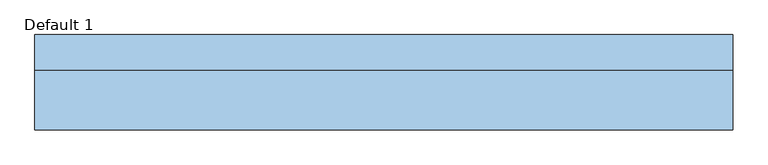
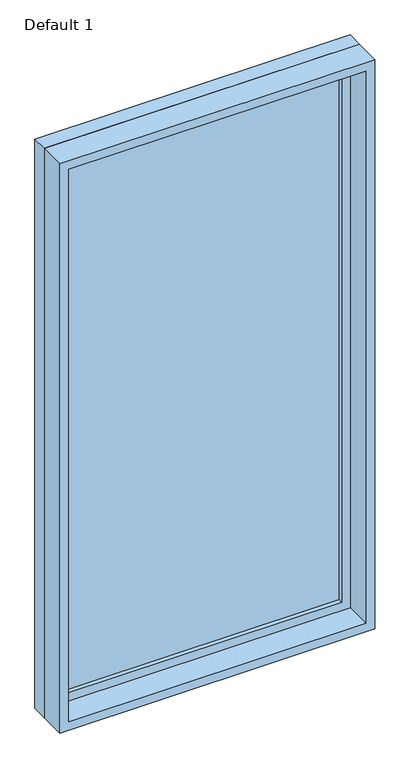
"""IFC4 building model written with IfcOpenShell, lengths in millimetres: window geometry, Planitar-Fixed : Default 1."""

import ifcopenshell
import ifcopenshell.guid

model = None  # the IFC model being written
_history = None  # IfcOwnerHistory: only IFC2X3 demands one
_inside = {}  # id of a spatial element -> (the spatial element, [elements in it])
_under = {}  # id of a project, library or spatial element -> (it, [spatial elements below it])
_declared = {}  # id of a project -> (the project, [libraries it declares])
_typed = {}  # id of a type object -> (the type object, [elements of that type])
_made_of = {}  # id of a material, layer set ... -> (it, [elements and type objects made of it])


def new_model(schema):
    """Start an empty IFC model of exactly this schema.

    Asked for "IFC4X3", IfcOpenShell would pick the latest addendum, in which some entities
    have other attributes; the version numbers below select the first issue.
    IFC2X3 requires an IfcOwnerHistory on every rooted entity: one is made here for all.
    """
    global model, _history
    if schema == "IFC4X3":
        model = ifcopenshell.file(schema_version=(4, 3, 0, 0))
    else:
        model = ifcopenshell.file(schema=schema)
    _inside.clear()
    _under.clear()
    _declared.clear()
    _typed.clear()
    _made_of.clear()
    _history = None
    if model.schema == "IFC2X3":
        org = make("IfcOrganization", Name="unknown")
        user = make(
            "IfcPersonAndOrganization",
            ThePerson=make("IfcPerson", FamilyName="unknown"),
            TheOrganization=org,
        )
        app = make(
            "IfcApplication",
            ApplicationDeveloper=org,
            Version="unknown",
            ApplicationFullName="unknown",
            ApplicationIdentifier="unknown",
        )
        _history = make(
            "IfcOwnerHistory",
            OwningUser=user,
            OwningApplication=app,
            ChangeAction="ADDED",
            CreationDate=0,
        )
    return model


def make(cls, **values):
    """One entity of the class cls with the attributes given. An attribute that is None is left unset."""
    return model.create_entity(
        cls, **{name: value for name, value in values.items() if value is not None}
    )


def rooted(cls, **values):
    """An entity with a GlobalId (a new one), such as an element, a storey or a relation."""
    return make(cls, GlobalId=ifcopenshell.guid.new(), OwnerHistory=_history, **values)


def si_unit(unit_type, name, prefix=None):
    """IfcSIUnit, for example si_unit("LENGTHUNIT", "METRE", prefix="MILLI")."""
    return make("IfcSIUnit", UnitType=unit_type, Prefix=prefix, Name=name)


def assignment(units):
    """IfcUnitAssignment: the units of a project."""
    return None if units is None else make("IfcUnitAssignment", Units=units)


def point(xyz):
    """IfcCartesianPoint."""
    return None if xyz is None else make("IfcCartesianPoint", Coordinates=xyz)


def direction(xyz):
    """IfcDirection."""
    return None if xyz is None else make("IfcDirection", DirectionRatios=xyz)


def frame(location, z_axis=None, x_axis=None):
    """IfcAxis2Placement3D, a coordinate frame: its origin and axes. An axis left out is left unset."""
    return make(
        "IfcAxis2Placement3D",
        Location=point(location),
        Axis=direction(z_axis),
        RefDirection=direction(x_axis),
    )


def origin():
    """The frame at (0, 0, 0) with its axes left unset."""
    return frame((0.0, 0.0, 0.0))


def place(relative_to, where):
    """IfcLocalPlacement: puts the frame where relative to a parent placement (None: the world)."""
    return make(
        "IfcLocalPlacement", PlacementRelTo=relative_to, RelativePlacement=where
    )


def context(
    kind, dimensions, precision=None, world=None, true_north=None, identifier=None
):
    """IfcGeometricRepresentationContext, for example the 3D "Model" context."""
    return make(
        "IfcGeometricRepresentationContext",
        ContextIdentifier=identifier,
        ContextType=kind,
        CoordinateSpaceDimension=dimensions,
        Precision=precision,
        WorldCoordinateSystem=world,
        TrueNorth=true_north,
    )


def project(units=None, contexts=None):
    """IfcProject with its units and contexts."""
    return rooted(
        "IfcProject",
        Name="project",
        RepresentationContexts=contexts,
        UnitsInContext=assignment(units),
    )


def spatial(cls, under=None, at=None, **own):
    """A site, building, storey or space (cls), placed at a placement, below another one or the project."""
    s = rooted(cls, ObjectPlacement=at, **own)
    if under is not None:
        _under.setdefault(under.id(), (under, []))[1].append(s)
    return s


def polyline(points):
    """IfcPolyline through the points."""
    return make("IfcPolyline", Points=[point(p) for p in points])


def outline(outer, holes=None, kind="AREA"):
    """IfcArbitraryClosedProfileDef: a profile drawn as a closed curve; with holes, ...WithVoids."""
    if holes is None:
        return make("IfcArbitraryClosedProfileDef", ProfileType=kind, OuterCurve=outer)
    return make(
        "IfcArbitraryProfileDefWithVoids",
        ProfileType=kind,
        OuterCurve=outer,
        InnerCurves=holes,
    )


def extrude(swept, where, along, depth):
    """IfcExtrudedAreaSolid: the profile swept, set in the frame where, extruded along a direction by depth."""
    return make(
        "IfcExtrudedAreaSolid",
        SweptArea=swept,
        Position=where,
        ExtrudedDirection=direction(along),
        Depth=depth,
    )


def shape(context_of_items, identifier, shape_type, items):
    """IfcShapeRepresentation: the items that make up one representation, for example the "Body"."""
    return make(
        "IfcShapeRepresentation",
        ContextOfItems=context_of_items,
        RepresentationIdentifier=identifier,
        RepresentationType=shape_type,
        Items=items,
    )


def source(mapping_origin, context_of_items, identifier, shape_type, items):
    """IfcRepresentationMap: a shape defined once, which mapped items show again and again."""
    return make(
        "IfcRepresentationMap",
        MappingOrigin=mapping_origin,
        MappedRepresentation=shape(context_of_items, identifier, shape_type, items),
    )


def transform(
    local_origin,
    x_axis=None,
    y_axis=None,
    z_axis=None,
    scale=None,
    scale2=None,
    scale3=None,
    uniform=True,
):
    """IfcCartesianTransformationOperator3D, or its non-uniform kind. x_axis, y_axis, z_axis: its Axis1, 2, 3."""
    if uniform:
        return make(
            "IfcCartesianTransformationOperator3D",
            Axis1=direction(x_axis),
            Axis2=direction(y_axis),
            LocalOrigin=point(local_origin),
            Scale=scale,
            Axis3=direction(z_axis),
        )
    return make(
        "IfcCartesianTransformationOperator3DnonUniform",
        Axis1=direction(x_axis),
        Axis2=direction(y_axis),
        LocalOrigin=point(local_origin),
        Scale=scale,
        Axis3=direction(z_axis),
        Scale2=scale2,
        Scale3=scale3,
    )


def mapped(mapping_source, mapping_target):
    """IfcMappedItem: shows the shape of a source again, moved by a transform."""
    return make(
        "IfcMappedItem", MappingSource=mapping_source, MappingTarget=mapping_target
    )


def made_of(thing, what):
    """Note that an element or type object is made of a material, layer set ...; save() writes the relation."""
    if what is not None:
        _made_of.setdefault(what.id(), (what, []))[1].append(thing)
    return thing


def element(
    cls,
    number,
    at=None,
    inside=None,
    cuts=None,
    type_object=None,
    material=None,
    context=None,
    identifier="Body",
    shape_type=None,
    held_by="IfcProductDefinitionShape",
    body=None,
    shapes=None,
    **own,
):
    """One element of the class cls, such as IfcWall. Its Tag is "e" and its number.

    at: its placement. inside: the storey or other place that contains it. cuts: it is an
    opening in that element (IfcRelVoidsElement). A single representation is given by context,
    identifier, shape_type and body (its items); several are given by shapes. held_by: the class
    of the entity that holds the representations. save() writes the other relations.
    """
    e = rooted(cls, Tag="e%d" % number, ObjectPlacement=at, **own)
    if body is not None:
        shapes = [shape(context, identifier, shape_type, body)]
    if shapes is not None:
        e.Representation = make(held_by, Representations=shapes)
    if inside is not None:
        _inside.setdefault(inside.id(), (inside, []))[1].append(e)
    if cuts is not None:
        rooted(
            "IfcRelVoidsElement", RelatingBuildingElement=cuts, RelatedOpeningElement=e
        )
    if type_object is not None:
        _typed.setdefault(type_object.id(), (type_object, []))[1].append(e)
    return made_of(e, material)


def aggregate(whole, parts):
    """IfcRelAggregates: a whole, such as a stair, and the parts it consists of."""
    return rooted("IfcRelAggregates", RelatingObject=whole, RelatedObjects=parts)


def save(model, path):
    """Write the relations noted so far, then the file.

    IfcRelAggregates (storeys below a building ...), IfcRelContainedInSpatialStructure (elements
    in a storey), IfcRelDefinesByType, IfcRelAssociatesMaterial and IfcRelDeclares: one each for
    every whole, place, type object, material and project.
    """
    for whole, parts in _under.values():
        aggregate(whole, parts)
    for where, things in _inside.values():
        rooted(
            "IfcRelContainedInSpatialStructure",
            RelatedElements=things,
            RelatingStructure=where,
        )
    for kind, things in _typed.values():
        rooted("IfcRelDefinesByType", RelatedObjects=things, RelatingType=kind)
    for what, things in _made_of.values():
        rooted("IfcRelAssociatesMaterial", RelatedObjects=things, RelatingMaterial=what)
    for by, libraries in _declared.values():
        rooted("IfcRelDeclares", RelatingContext=by, RelatedDefinitions=libraries)
    model.write(path)


def default_1_4f75ed1f(model_context):
    return source(origin(), model_context, "Body", "SweptSolid", [
        extrude(outline(polyline([(3029.0, -539.8), (933.4, -539.8), (933.4, 539.8), (3029.0, 539.8), (3029.0, -539.8)]), holes=[polyline([(2985.0, -495.8), (2985.0, 495.8), (977.4, 495.8), (977.4, -495.8), (2985.0, -495.8)])]), frame((0.0, 32.5, 0.0), z_axis=(0.0, 1.0, 0.0), x_axis=(0.0, 0.0, 1.0)), (0.0, 0.0, 1.0), 44.0),
        extrude(outline(polyline([(3048.0, -558.8), (914.4, -558.8), (914.4, 558.8), (3048.0, 558.8), (3048.0, -558.8)]), holes=[polyline([(3029.0, -539.8), (3029.0, 539.8), (933.4, 539.8), (933.4, -539.8), (3029.0, -539.8)])]), frame((0.0, 32.5, 0.0), z_axis=(0.0, 1.0, 0.0), x_axis=(0.0, 0.0, 1.0)), (0.0, 0.0, 1.0), 56.7),
        extrude(outline(polyline([(3048.0, -558.8), (914.4, -558.8), (914.4, 558.8), (3048.0, 558.8), (3048.0, -558.8)]), holes=[polyline([(3016.0, -526.8), (3016.0, 526.8), (946.4, 526.8), (946.4, -526.8), (3016.0, -526.8)])]), frame((0.0, -63.2, 0.0), z_axis=(0.0, 1.0, 0.0), x_axis=(0.0, 0.0, 1.0)), (0.0, 0.0, 1.0), 95.7),
        extrude(outline(polyline([(-495.8, 60.5), (495.8, 60.5), (495.8, 48.5), (-495.8, 48.5), (-495.8, 60.5)])), frame((0.0, 0.0, 977.4), z_axis=(0.0, 0.0, 1.0), x_axis=(1.0, 0.0, 0.0)), (0.0, 0.0, 1.0), 2007.6),
    ])


if __name__ == "__main__":
    model = new_model("IFC4")
    model_context = context("Model", 3, world=origin())
    ifc_project = project(units=[si_unit("LENGTHUNIT", "METRE", prefix="MILLI")], contexts=[model_context])
    site = spatial("IfcSite", under=ifc_project)
    building = spatial("IfcBuilding", under=site)
    placement = place(None, origin())
    default_1_shape = default_1_4f75ed1f(model_context)
    element("IfcWindow", 1, ObjectType="Planitar-Fixed : Default 1", at=placement, inside=building, context=model_context, shape_type="MappedRepresentation", body=[
        mapped(default_1_shape, transform((0.0, 0.0, 0.0), x_axis=(1.0, 0.0, 0.0), y_axis=(0.0, 1.0, 0.0), z_axis=(0.0, 0.0, 1.0))),
    ])
    save(model, "model.ifc")
